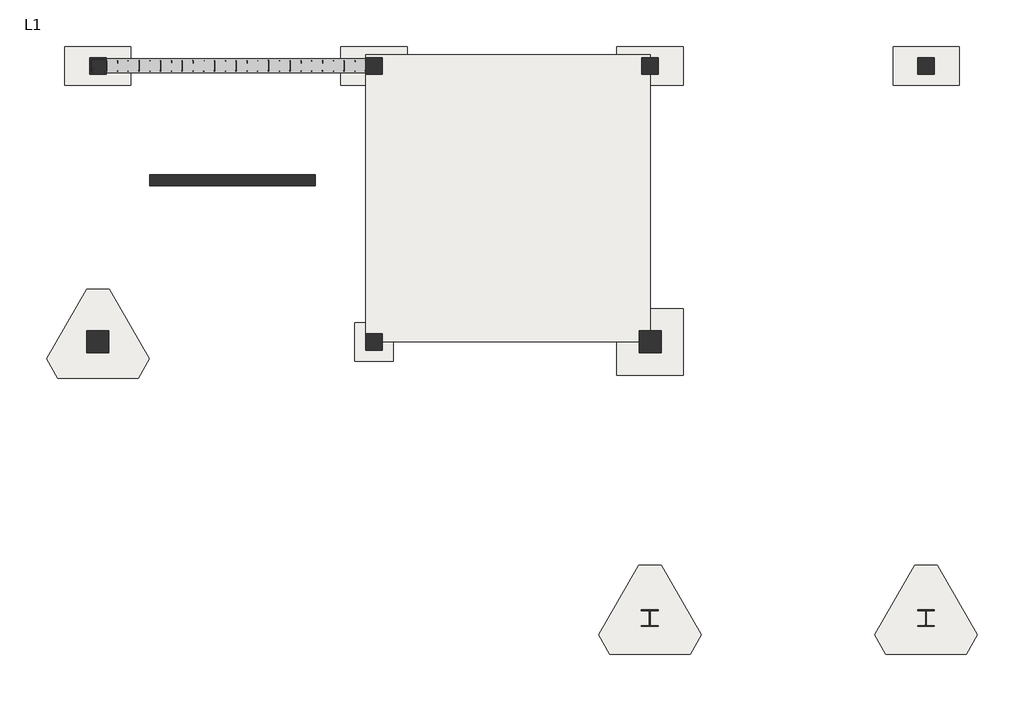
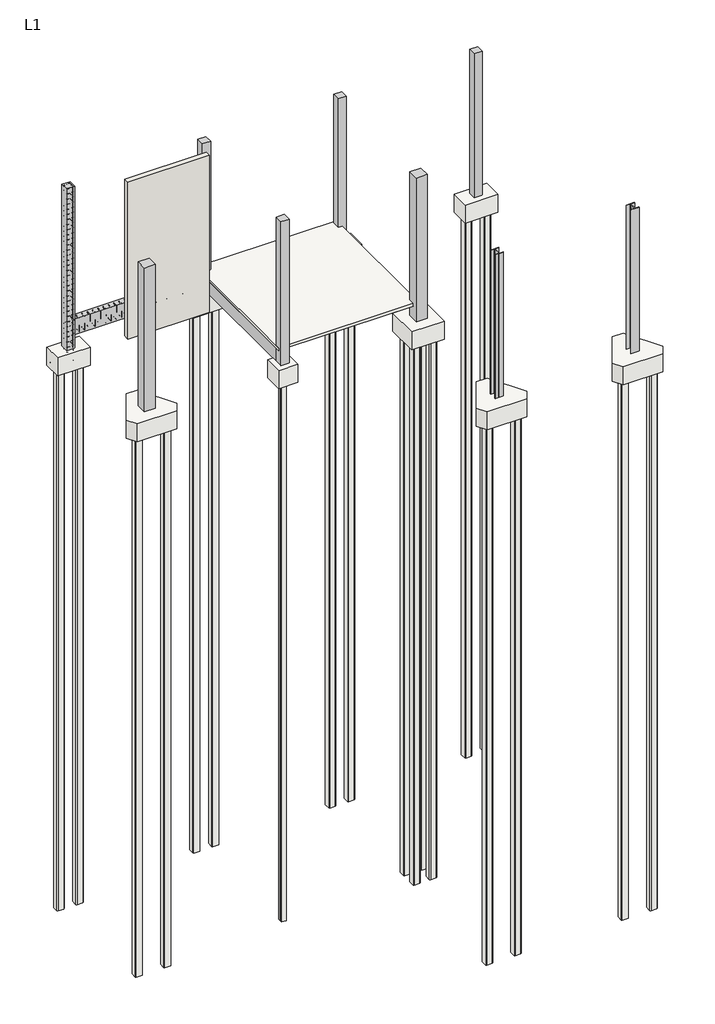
# One storey, part 1 of 2: 32 slabs, 9 columns, 3 beams, 1 wall.
"""IFC4 building model written with IfcOpenShell, lengths in millimetres."""

from ifc_helpers import new_model, si_unit, frame, origin, origin_with_axes, place, context, project, spatial, polyline, outline, extrude, faceted_brep, transform, mapped, element, save
from components import column_7ff625d0, m_concrete_rectangular_column_300_x_300mm_2635544c, m_concrete_rectangular_column_400_x_400mm_518cfa90

model = new_model("IFC4")

# Units and contexts
model_context = context("Model", 3, world=origin())
ifc_project = project(units=[si_unit("LENGTHUNIT", "METRE", prefix="MILLI")], contexts=[model_context])

# Site, building, storey
site = spatial("IfcSite", under=ifc_project)
building = spatial("IfcBuilding", under=site)
storey = spatial("IfcBuildingStorey", under=building, Name="L1", Elevation=0.0)

# Beams
placement = place(None, origin())
element("IfcBeam", 1, ObjectType="M_Concrete-Rectangular Beam : 300 x 600mm", at=placement, inside=storey, context=model_context, shape_type="SweptSolid", body=[
    extrude(outline(polyline([(-5818.0, 13516.0), (-5518.0, 13516.0), (-5518.0, 8866.0), (-5818.0, 8866.0), (-5818.0, 13516.0)])), frame((0.0, 0.0, -600.0), z_axis=(0.0, 0.0, 1.0), x_axis=(1.0, 0.0, 0.0)), (0.0, 0.0, 1.0), 500.0),
])
element("IfcBeam", 2, ObjectType="M_Concrete-Rectangular Ground Beam : 250 x 600", at=placement, inside=storey, context=model_context, shape_type="SweptSolid", body=[
    extrude(outline(polyline([(-10518.0, 13591.0), (-10518.0, 13841.0), (-5818.0, 13841.0), (-5818.0, 13591.0), (-10518.0, 13591.0)])), frame((0.0, 0.0, -800.0), z_axis=(0.0, 0.0, 1.0), x_axis=(1.0, 0.0, 0.0)), (0.0, 0.0, 1.0), 600.0),
])
element("IfcBeam", 3, ObjectType="M_Concrete-Rectangular Ground Beam : 400 x 800mm", at=placement, inside=storey, context=model_context, shape_type="Brep", body=[
    faceted_brep([(-5818.0, 13516.0, -800.0), (-668.0, 13516.0, -800.0), (-668.0, 13516.0, -100.0), (-5518.0, 13516.0, -100.0), (-5818.0, 13516.0, -100.0), (-5818.0, 13516.0, -600.0), (-5518.0, 13566.0, -800.0), (-5518.0, 13866.0, -800.0), (-5818.0, 13866.0, -800.0), (-5818.0, 13916.0, -800.0), (-668.0, 13916.0, -800.0), (-668.0, 13866.0, -800.0), (-818.0, 13866.0, -800.0), (-818.0, 13566.0, -800.0), (-668.0, 13566.0, -800.0), (-5818.0, 13566.0, -800.0), (-5818.0, 13916.0, -100.0), (-668.0, 13916.0, -100.0), (-668.0, 13566.0, -100.0), (-5518.0, 13566.0, -100.0), (-5518.0, 13866.0, -100.0), (-5818.0, 13566.0, -100.0), (-5818.0, 13866.0, -100.0), (-818.0, 13566.0, -100.0), (-818.0, 13866.0, -100.0), (-668.0, 13866.0, -100.0)], [[[0, 1, 2, 3, 4, 5]], [[6, 7, 8, 9, 10, 11, 12, 13, 14, 1, 0, 15]], [[10, 9, 16, 17]], [[1, 14, 18, 2]], [[7, 6, 19, 20]], [[6, 15, 21, 19]], [[8, 7, 20, 22]], [[14, 13, 23, 18]], [[13, 12, 24, 23]], [[12, 11, 25, 24]], [[11, 10, 17, 25]], [[9, 8, 22, 16]], [[15, 0, 5, 4, 21]], [[4, 3, 2, 18, 23, 24, 25, 17, 16, 22, 20, 19, 21]]]),
])

# Columns
column_shape = column_7ff625d0(model_context)
element("IfcColumn", 4, ObjectType="M_WF-Wide Flange-Column : WF - 300x300x10x15 mm. - 94 kg./m.", at=placement, inside=storey, context=model_context, shape_type="MappedRepresentation", body=[
    mapped(column_shape, transform((-673.0, 3716.0, 0.0), x_axis=(1.0, 0.0, 0.0), y_axis=(0.0, 1.0, 0.0), z_axis=(0.0, 0.0, 1.0))),
])
element("IfcColumn", 5, ObjectType="M_WF-Wide Flange-Column : WF - 300x300x10x15 mm. - 94 kg./m.", at=placement, inside=storey, context=model_context, shape_type="MappedRepresentation", body=[
    mapped(column_shape, transform((4327.0, 3716.0, 0.0), x_axis=(1.0, 0.0, 0.0), y_axis=(0.0, 1.0, 0.0), z_axis=(0.0, 0.0, 1.0))),
])
element("IfcColumn", 6, ObjectType="M_Concrete-Rectangular-Column : 300 x 300mm", at=placement, inside=storey, context=model_context, shape_type="SweptSolid", body=[
    extrude(outline(polyline([(-10518.0, 13866.0), (-10518.0, 13566.0), (-10818.0, 13566.0), (-10818.0, 13866.0), (-10518.0, 13866.0)])), frame((0.0, 0.0, -1300.0), z_axis=(0.0, 0.0, 1.0), x_axis=(1.0, 0.0, 0.0)), (0.0, 0.0, 1.0), 6300.0),
])
element("IfcColumn", 7, ObjectType="M_Concrete-Rectangular-Column : 300 x 300mm", at=placement, inside=storey, context=model_context, shape_type="SweptSolid", body=[
    extrude(outline(polyline([(-5518.0, 13866.0), (-5518.0, 13566.0), (-5818.0, 13566.0), (-5818.0, 13866.0), (-5518.0, 13866.0)])), frame((0.0, 0.0, -800.0), z_axis=(0.0, 0.0, 1.0), x_axis=(1.0, 0.0, 0.0)), (0.0, 0.0, 1.0), 700.0),
    extrude(outline(polyline([(-5518.0, 13866.0), (-5518.0, 13566.0), (-5818.0, 13566.0), (-5818.0, 13866.0), (-5518.0, 13866.0)])), origin_with_axes(), (0.0, 0.0, 1.0), 5000.0),
])
element("IfcColumn", 8, ObjectType="M_Concrete-Rectangular-Column : 300 x 300mm", at=placement, inside=storey, context=model_context, shape_type="SweptSolid", body=[
    extrude(outline(polyline([(-800.0, -818.0), (-800.0, -518.0), (5000.0, -518.0), (5000.0, -818.0), (0.0, -818.0), (0.0, -668.0), (-100.0, -668.0), (-100.0, -818.0), (-800.0, -818.0)])), frame((0.0, 13566.0, 0.0), z_axis=(0.0, 1.0, 0.0), x_axis=(0.0, 0.0, 1.0)), (0.0, 0.0, 1.0), 300.0),
])
element("IfcColumn", 9, ObjectType="M_Concrete-Rectangular-Column : 300 x 300mm", at=placement, inside=storey, context=model_context, shape_type="SweptSolid", body=[
    extrude(outline(polyline([(8866.0, -600.0), (8566.0, -600.0), (8566.0, 5000.0), (8866.0, 5000.0), (8866.0, 0.0), (8716.0, 0.0), (8716.0, -100.0), (8866.0, -100.0), (8866.0, -600.0)])), frame((-5818.0, 0.0, 0.0), z_axis=(1.0, 0.0, 0.0), x_axis=(0.0, 1.0, 0.0)), (0.0, 0.0, 1.0), 300.0),
])
m_concrete_rectangular_column_300_x_300mm_shape = m_concrete_rectangular_column_300_x_300mm_2635544c(model_context)
element("IfcColumn", 10, ObjectType="M_Concrete-Rectangular-Column : 300 x 300mm", at=placement, inside=storey, context=model_context, shape_type="MappedRepresentation", body=[
    mapped(m_concrete_rectangular_column_300_x_300mm_shape, transform((4332.0, 13716.0, 0.0), x_axis=(1.0, 0.0, 0.0), y_axis=(0.0, 1.0, 0.0), z_axis=(0.0, 0.0, 1.0))),
])
element("IfcColumn", 11, ObjectType="M_Concrete-Rectangular-Column : 400 x 400mm", at=placement, inside=storey, context=model_context, shape_type="Brep", body=[
    faceted_brep([(-468.0, 8916.0, -600.0), (-468.0, 8516.0, -600.0), (-868.0, 8516.0, -600.0), (-868.0, 8916.0, -600.0), (-468.0, 8916.0, 5000.0), (-468.0, 8516.0, 5000.0), (-868.0, 8516.0, 5000.0), (-868.0, 8916.0, 5000.0), (-868.0, 8916.0, 0.0), (-868.0, 8716.0, 0.0), (-868.0, 8716.0, -100.0), (-868.0, 8916.0, -100.0), (-668.0, 8916.0, -100.0), (-668.0, 8916.0, 0.0), (-668.0, 8716.0, -100.0), (-668.0, 8716.0, 0.0)], [[[0, 1, 2, 3]], [[1, 0, 4, 5]], [[2, 1, 5, 6]], [[3, 2, 6, 7, 8, 9, 10, 11]], [[0, 3, 11, 12, 13, 8, 7, 4]], [[5, 4, 7, 6]], [[14, 12, 11, 10]], [[15, 9, 8, 13]], [[15, 14, 10, 9]], [[14, 15, 13, 12]]]),
])
m_concrete_rectangular_column_400_x_400mm_shape = m_concrete_rectangular_column_400_x_400mm_518cfa90(model_context)
element("IfcColumn", 12, ObjectType="M_Concrete-Rectangular-Column : 400 x 400mm", at=placement, inside=storey, context=model_context, shape_type="MappedRepresentation", body=[
    mapped(m_concrete_rectangular_column_400_x_400mm_shape, transform((-10668.0, 8716.0, 0.0), x_axis=(1.0, 0.0, 0.0), y_axis=(0.0, 1.0, 0.0), z_axis=(0.0, 0.0, 1.0))),
])

# Slabs
element("IfcSlab", 13, ObjectType="Concrete 100mm", at=placement, inside=storey, context=model_context, shape_type="Brep", body=[
    faceted_brep([(-668.0, 8716.0, -100.0), (-868.0, 8716.0, -100.0), (-5518.0, 8716.0, -100.0), (-5818.0, 8716.0, -100.0), (-5818.0, 8866.0, -100.0), (-5818.0, 13516.0, -100.0), (-5818.0, 13566.0, -100.0), (-5818.0, 13866.0, -100.0), (-5818.0, 13916.0, -100.0), (-668.0, 13916.0, -100.0), (-668.0, 13866.0, -100.0), (-668.0, 13566.0, -100.0), (-668.0, 13516.0, -100.0), (-668.0, 8916.0, -100.0), (-668.0, 8716.0, 0.0), (-668.0, 8916.0, 0.0), (-668.0, 13566.0, 0.0), (-668.0, 13866.0, 0.0), (-668.0, 13916.0, 0.0), (-5818.0, 13916.0, 0.0), (-5818.0, 13866.0, 0.0), (-5818.0, 13566.0, 0.0), (-5818.0, 8866.0, 0.0), (-5818.0, 8716.0, 0.0), (-5518.0, 8716.0, 0.0), (-868.0, 8716.0, 0.0)], [[[0, 1, 2, 3, 4, 5, 6, 7, 8, 9, 10, 11, 12, 13]], [[14, 15, 16, 17, 18, 19, 20, 21, 22, 23, 24, 25]], [[3, 2, 1, 0, 14, 25, 24, 23]], [[8, 7, 6, 5, 4, 3, 23, 22, 21, 20, 19]], [[9, 8, 19, 18]], [[0, 13, 12, 11, 10, 9, 18, 17, 16, 15, 14]]]),
])
element("IfcSlab", 14, ObjectType="M-Foundation_1 Pile with Pile : 700x700X700(Thk.) mm.", at=placement, inside=storey, context=model_context, shape_type="SweptSolid", body=[
    extrude(outline(polyline([(-5318.0, 8366.0), (-6018.0, 8366.0), (-6018.0, 9066.0), (-5318.0, 9066.0), (-5318.0, 8366.0)])), frame((0.0, 0.0, -1300.0), z_axis=(0.0, 0.0, 1.0), x_axis=(1.0, 0.0, 0.0)), (0.0, 0.0, 1.0), 700.0),
])
element("IfcSlab", 15, ObjectType="M-Foundation_2 Pile with Pile : 700x1200x700 (Thk,) mm.", at=placement, inside=storey, context=model_context, shape_type="SweptSolid", body=[
    extrude(outline(polyline([(-10068.0, 13366.0), (-11268.0, 13366.0), (-11268.0, 14066.0), (-10068.0, 14066.0), (-10068.0, 13366.0)])), frame((0.0, 0.0, -2000.0), z_axis=(0.0, 0.0, 1.0), x_axis=(1.0, 0.0, 0.0)), (0.0, 0.0, 1.0), 700.0),
])
element("IfcSlab", 16, ObjectType="M-Foundation_2 Pile with Pile : 700x1200x700 (Thk,) mm.", at=placement, inside=storey, context=model_context, shape_type="SweptSolid", body=[
    extrude(outline(polyline([(-5068.0, 13366.0), (-6268.0, 13366.0), (-6268.0, 14066.0), (-5068.0, 14066.0), (-5068.0, 13366.0)])), frame((0.0, 0.0, -1500.0), z_axis=(0.0, 0.0, 1.0), x_axis=(1.0, 0.0, 0.0)), (0.0, 0.0, 1.0), 700.0),
])
element("IfcSlab", 17, ObjectType="M-Foundation_2 Pile with Pile : 700x1200x700 (Thk,) mm.", at=placement, inside=storey, context=model_context, shape_type="SweptSolid", body=[
    extrude(outline(polyline([(-68.0, 13366.0), (-1268.0, 13366.0), (-1268.0, 14066.0), (-68.0, 14066.0), (-68.0, 13366.0)])), frame((0.0, 0.0, -1500.0), z_axis=(0.0, 0.0, 1.0), x_axis=(1.0, 0.0, 0.0)), (0.0, 0.0, 1.0), 700.0),
])
element("IfcSlab", 18, ObjectType="M-Foundation_2 Pile with Pile : 700x1200x700 (Thk,) mm.", at=placement, inside=storey, context=model_context, shape_type="SweptSolid", body=[
    extrude(outline(polyline([(4932.0, 13366.0), (3732.0, 13366.0), (3732.0, 14066.0), (4932.0, 14066.0), (4932.0, 13366.0)])), frame((0.0, 0.0, -1300.0), z_axis=(0.0, 0.0, 1.0), x_axis=(1.0, 0.0, 0.0)), (0.0, 0.0, 1.0), 700.0),
])
element("IfcSlab", 19, ObjectType="M-Foundation_3 Pile with Pile : 700x1200x700 (Thk.) mm.", at=placement, inside=storey, context=model_context, shape_type="SweptSolid", body=[
    extrude(outline(polyline([(-9738.8548116, 8412.8911087), (-9940.9274058, 8062.8911087), (-11395.0725942, 8062.8911087), (-11597.1451884, 8412.8911087), (-10870.0725942, 9672.2177826), (-10465.9274058, 9672.2177826), (-9738.8548116, 8412.8911087)])), frame((0.0, 0.0, -1300.0), z_axis=(0.0, 0.0, 1.0), x_axis=(1.0, 0.0, 0.0)), (0.0, 0.0, 1.0), 700.0),
])
element("IfcSlab", 20, ObjectType="M-Foundation_3 Pile with Pile : 700x1200x700 (Thk.) mm.", at=placement, inside=storey, context=model_context, shape_type="SweptSolid", body=[
    extrude(outline(polyline([(261.1451884, 3412.8911087), (59.0725942, 3062.8911087), (-1395.0725942, 3062.8911087), (-1597.1451884, 3412.8911087), (-870.0725942, 4672.2177826), (-465.9274058, 4672.2177826), (261.1451884, 3412.8911087)])), frame((0.0, 0.0, -1300.0), z_axis=(0.0, 0.0, 1.0), x_axis=(1.0, 0.0, 0.0)), (0.0, 0.0, 1.0), 700.0),
])
element("IfcSlab", 21, ObjectType="M-Foundation_3 Pile with Pile : 700x1200x700 (Thk.) mm.", at=placement, inside=storey, context=model_context, shape_type="SweptSolid", body=[
    extrude(outline(polyline([(5261.1451884, 3412.8911087), (5059.0725942, 3062.8911087), (3604.9274058, 3062.8911087), (3402.8548116, 3412.8911087), (4129.9274058, 4672.2177826), (4534.0725942, 4672.2177826), (5261.1451884, 3412.8911087)])), frame((0.0, 0.0, -1300.0), z_axis=(0.0, 0.0, 1.0), x_axis=(1.0, 0.0, 0.0)), (0.0, 0.0, 1.0), 700.0),
])
element("IfcSlab", 22, ObjectType="M-Foundation_4 Pile with Pile : 1200x1200x700 (Thk.) mm.", at=placement, inside=storey, context=model_context, shape_type="SweptSolid", body=[
    extrude(outline(polyline([(-68.0, 8116.0), (-1268.0, 8116.0), (-1268.0, 9316.0), (-68.0, 9316.0), (-68.0, 8116.0)])), frame((0.0, 0.0, -1300.0), z_axis=(0.0, 0.0, 1.0), x_axis=(1.0, 0.0, 0.0)), (0.0, 0.0, 1.0), 700.0),
])
element("IfcSlab", 23, ObjectType="M_Pile I Shape : Pile I - 0.18x0.18", at=placement, inside=storey, context=model_context, shape_type="SweptSolid", body=[
    extrude(outline(polyline([(-5588.0, 8626.0), (-5748.0, 8626.0), (-5758.0, 8636.0), (-5758.0, 8686.0), (-5703.0, 8701.0), (-5703.0, 8731.0), (-5758.0, 8746.0), (-5758.0, 8796.0), (-5748.0, 8806.0), (-5588.0, 8806.0), (-5578.0, 8796.0), (-5578.0, 8746.0), (-5633.0, 8731.0), (-5633.0, 8701.0), (-5578.0, 8686.0), (-5578.0, 8636.0), (-5588.0, 8626.0)])), frame((0.0, 0.0, -22300.0), z_axis=(0.0, 0.0, 1.0), x_axis=(1.0, 0.0, 0.0)), (0.0, 0.0, 1.0), 21000.0),
])
element("IfcSlab", 24, ObjectType="M_Pile Square Sharpe : Pile Square - 0.26x0.26", at=placement, inside=storey, context=model_context, shape_type="SweptSolid", body=[
    extrude(outline(polyline([(-10213.0, 13846.0), (-10188.0, 13821.0), (-10188.0, 13611.0), (-10213.0, 13586.0), (-10423.0, 13586.0), (-10448.0, 13611.0), (-10448.0, 13821.0), (-10423.0, 13846.0), (-10213.0, 13846.0)])), frame((0.0, 0.0, -23000.0), z_axis=(0.0, 0.0, 1.0), x_axis=(1.0, 0.0, 0.0)), (0.0, 0.0, 1.0), 21100.0),
])
element("IfcSlab", 25, ObjectType="M_Pile Square Sharpe : Pile Square - 0.26x0.26", at=placement, inside=storey, context=model_context, shape_type="SweptSolid", body=[
    extrude(outline(polyline([(-10913.0, 13846.0), (-10888.0, 13821.0), (-10888.0, 13611.0), (-10913.0, 13586.0), (-11123.0, 13586.0), (-11148.0, 13611.0), (-11148.0, 13821.0), (-11123.0, 13846.0), (-10913.0, 13846.0)])), frame((0.0, 0.0, -23000.0), z_axis=(0.0, 0.0, 1.0), x_axis=(1.0, 0.0, 0.0)), (0.0, 0.0, 1.0), 21100.0),
])
element("IfcSlab", 26, ObjectType="M_Pile Square Sharpe : Pile Square - 0.26x0.26", at=placement, inside=storey, context=model_context, shape_type="SweptSolid", body=[
    extrude(outline(polyline([(-5213.0, 13846.0), (-5188.0, 13821.0), (-5188.0, 13611.0), (-5213.0, 13586.0), (-5423.0, 13586.0), (-5448.0, 13611.0), (-5448.0, 13821.0), (-5423.0, 13846.0), (-5213.0, 13846.0)])), frame((0.0, 0.0, -22500.0), z_axis=(0.0, 0.0, 1.0), x_axis=(1.0, 0.0, 0.0)), (0.0, 0.0, 1.0), 21000.0),
])
element("IfcSlab", 27, ObjectType="M_Pile Square Sharpe : Pile Square - 0.26x0.26", at=placement, inside=storey, context=model_context, shape_type="SweptSolid", body=[
    extrude(outline(polyline([(-5913.0, 13846.0), (-5888.0, 13821.0), (-5888.0, 13611.0), (-5913.0, 13586.0), (-6123.0, 13586.0), (-6148.0, 13611.0), (-6148.0, 13821.0), (-6123.0, 13846.0), (-5913.0, 13846.0)])), frame((0.0, 0.0, -22500.0), z_axis=(0.0, 0.0, 1.0), x_axis=(1.0, 0.0, 0.0)), (0.0, 0.0, 1.0), 21000.0),
])
element("IfcSlab", 28, ObjectType="M_Pile Square Sharpe : Pile Square - 0.26x0.26", at=placement, inside=storey, context=model_context, shape_type="SweptSolid", body=[
    extrude(outline(polyline([(-213.0, 13846.0), (-188.0, 13821.0), (-188.0, 13611.0), (-213.0, 13586.0), (-423.0, 13586.0), (-448.0, 13611.0), (-448.0, 13821.0), (-423.0, 13846.0), (-213.0, 13846.0)])), frame((0.0, 0.0, -22500.0), z_axis=(0.0, 0.0, 1.0), x_axis=(1.0, 0.0, 0.0)), (0.0, 0.0, 1.0), 21000.0),
])
element("IfcSlab", 29, ObjectType="M_Pile Square Sharpe : Pile Square - 0.26x0.26", at=placement, inside=storey, context=model_context, shape_type="SweptSolid", body=[
    extrude(outline(polyline([(-913.0, 13846.0), (-888.0, 13821.0), (-888.0, 13611.0), (-913.0, 13586.0), (-1123.0, 13586.0), (-1148.0, 13611.0), (-1148.0, 13821.0), (-1123.0, 13846.0), (-913.0, 13846.0)])), frame((0.0, 0.0, -22500.0), z_axis=(0.0, 0.0, 1.0), x_axis=(1.0, 0.0, 0.0)), (0.0, 0.0, 1.0), 21000.0),
])
element("IfcSlab", 30, ObjectType="M_Pile Square Sharpe : Pile Square - 0.26x0.26", at=placement, inside=storey, context=model_context, shape_type="SweptSolid", body=[
    extrude(outline(polyline([(4787.0, 13846.0), (4812.0, 13821.0), (4812.0, 13611.0), (4787.0, 13586.0), (4577.0, 13586.0), (4552.0, 13611.0), (4552.0, 13821.0), (4577.0, 13846.0), (4787.0, 13846.0)])), frame((0.0, 0.0, -22300.0), z_axis=(0.0, 0.0, 1.0), x_axis=(1.0, 0.0, 0.0)), (0.0, 0.0, 1.0), 21000.0),
])
element("IfcSlab", 31, ObjectType="M_Pile Square Sharpe : Pile Square - 0.26x0.26", at=placement, inside=storey, context=model_context, shape_type="SweptSolid", body=[
    extrude(outline(polyline([(4087.0, 13846.0), (4112.0, 13821.0), (4112.0, 13611.0), (4087.0, 13586.0), (3877.0, 13586.0), (3852.0, 13611.0), (3852.0, 13821.0), (3877.0, 13846.0), (4087.0, 13846.0)])), frame((0.0, 0.0, -22300.0), z_axis=(0.0, 0.0, 1.0), x_axis=(1.0, 0.0, 0.0)), (0.0, 0.0, 1.0), 21000.0),
])
element("IfcSlab", 32, ObjectType="M_Pile Square Sharpe : Pile Square - 0.26x0.26", at=placement, inside=storey, context=model_context, shape_type="SweptSolid", body=[
    extrude(outline(polyline([(-10038.0, 8542.8911087), (-10013.0, 8517.8911087), (-10013.0, 8307.8911087), (-10038.0, 8282.8911087), (-10248.0, 8282.8911087), (-10273.0, 8307.8911087), (-10273.0, 8517.8911087), (-10248.0, 8542.8911087), (-10038.0, 8542.8911087)])), frame((0.0, 0.0, -22300.0), z_axis=(0.0, 0.0, 1.0), x_axis=(1.0, 0.0, 0.0)), (0.0, 0.0, 1.0), 21000.0),
])
element("IfcSlab", 33, ObjectType="M_Pile Square Sharpe : Pile Square - 0.26x0.26", at=placement, inside=storey, context=model_context, shape_type="SweptSolid", body=[
    extrude(outline(polyline([(-11088.0, 8542.8911087), (-11063.0, 8517.8911087), (-11063.0, 8307.8911087), (-11088.0, 8282.8911087), (-11298.0, 8282.8911087), (-11323.0, 8307.8911087), (-11323.0, 8517.8911087), (-11298.0, 8542.8911087), (-11088.0, 8542.8911087)])), frame((0.0, 0.0, -22300.0), z_axis=(0.0, 0.0, 1.0), x_axis=(1.0, 0.0, 0.0)), (0.0, 0.0, 1.0), 21000.0),
])
element("IfcSlab", 34, ObjectType="M_Pile Square Sharpe : Pile Square - 0.26x0.26", at=placement, inside=storey, context=model_context, shape_type="SweptSolid", body=[
    extrude(outline(polyline([(-10563.0, 9452.2177826), (-10538.0, 9427.2177826), (-10538.0, 9217.2177826), (-10563.0, 9192.2177826), (-10773.0, 9192.2177826), (-10798.0, 9217.2177826), (-10798.0, 9427.2177826), (-10773.0, 9452.2177826), (-10563.0, 9452.2177826)])), frame((0.0, 0.0, -22300.0), z_axis=(0.0, 0.0, 1.0), x_axis=(1.0, 0.0, 0.0)), (0.0, 0.0, 1.0), 21000.0),
])
element("IfcSlab", 35, ObjectType="M_Pile Square Sharpe : Pile Square - 0.26x0.26", at=placement, inside=storey, context=model_context, shape_type="SweptSolid", body=[
    extrude(outline(polyline([(-863.0, 9146.0), (-838.0, 9121.0), (-838.0, 8911.0), (-863.0, 8886.0), (-1073.0, 8886.0), (-1098.0, 8911.0), (-1098.0, 9121.0), (-1073.0, 9146.0), (-863.0, 9146.0)])), frame((0.0, 0.0, -22300.0), z_axis=(0.0, 0.0, 1.0), x_axis=(1.0, 0.0, 0.0)), (0.0, 0.0, 1.0), 21000.0),
])
element("IfcSlab", 36, ObjectType="M_Pile Square Sharpe : Pile Square - 0.26x0.26", at=placement, inside=storey, context=model_context, shape_type="SweptSolid", body=[
    extrude(outline(polyline([(-263.0, 9146.0), (-238.0, 9121.0), (-238.0, 8911.0), (-263.0, 8886.0), (-473.0, 8886.0), (-498.0, 8911.0), (-498.0, 9121.0), (-473.0, 9146.0), (-263.0, 9146.0)])), frame((0.0, 0.0, -22300.0), z_axis=(0.0, 0.0, 1.0), x_axis=(1.0, 0.0, 0.0)), (0.0, 0.0, 1.0), 21000.0),
])
element("IfcSlab", 37, ObjectType="M_Pile Square Sharpe : Pile Square - 0.26x0.26", at=placement, inside=storey, context=model_context, shape_type="SweptSolid", body=[
    extrude(outline(polyline([(-263.0, 8546.0), (-238.0, 8521.0), (-238.0, 8311.0), (-263.0, 8286.0), (-473.0, 8286.0), (-498.0, 8311.0), (-498.0, 8521.0), (-473.0, 8546.0), (-263.0, 8546.0)])), frame((0.0, 0.0, -22300.0), z_axis=(0.0, 0.0, 1.0), x_axis=(1.0, 0.0, 0.0)), (0.0, 0.0, 1.0), 21000.0),
])
element("IfcSlab", 38, ObjectType="M_Pile Square Sharpe : Pile Square - 0.26x0.26", at=placement, inside=storey, context=model_context, shape_type="SweptSolid", body=[
    extrude(outline(polyline([(-863.0, 8546.0), (-838.0, 8521.0), (-838.0, 8311.0), (-863.0, 8286.0), (-1073.0, 8286.0), (-1098.0, 8311.0), (-1098.0, 8521.0), (-1073.0, 8546.0), (-863.0, 8546.0)])), frame((0.0, 0.0, -22300.0), z_axis=(0.0, 0.0, 1.0), x_axis=(1.0, 0.0, 0.0)), (0.0, 0.0, 1.0), 21000.0),
])
element("IfcSlab", 39, ObjectType="M_Pile Square Sharpe : Pile Square - 0.26x0.26", at=placement, inside=storey, context=model_context, shape_type="SweptSolid", body=[
    extrude(outline(polyline([(-38.0, 3542.8911087), (-13.0, 3517.8911087), (-13.0, 3307.8911087), (-38.0, 3282.8911087), (-248.0, 3282.8911087), (-273.0, 3307.8911087), (-273.0, 3517.8911087), (-248.0, 3542.8911087), (-38.0, 3542.8911087)])), frame((0.0, 0.0, -22300.0), z_axis=(0.0, 0.0, 1.0), x_axis=(1.0, 0.0, 0.0)), (0.0, 0.0, 1.0), 21000.0),
])
element("IfcSlab", 40, ObjectType="M_Pile Square Sharpe : Pile Square - 0.26x0.26", at=placement, inside=storey, context=model_context, shape_type="SweptSolid", body=[
    extrude(outline(polyline([(-1088.0, 3542.8911087), (-1063.0, 3517.8911087), (-1063.0, 3307.8911087), (-1088.0, 3282.8911087), (-1298.0, 3282.8911087), (-1323.0, 3307.8911087), (-1323.0, 3517.8911087), (-1298.0, 3542.8911087), (-1088.0, 3542.8911087)])), frame((0.0, 0.0, -22300.0), z_axis=(0.0, 0.0, 1.0), x_axis=(1.0, 0.0, 0.0)), (0.0, 0.0, 1.0), 21000.0),
])
element("IfcSlab", 41, ObjectType="M_Pile Square Sharpe : Pile Square - 0.26x0.26", at=placement, inside=storey, context=model_context, shape_type="SweptSolid", body=[
    extrude(outline(polyline([(-563.0, 4452.2177826), (-538.0, 4427.2177826), (-538.0, 4217.2177826), (-563.0, 4192.2177826), (-773.0, 4192.2177826), (-798.0, 4217.2177826), (-798.0, 4427.2177826), (-773.0, 4452.2177826), (-563.0, 4452.2177826)])), frame((0.0, 0.0, -22300.0), z_axis=(0.0, 0.0, 1.0), x_axis=(1.0, 0.0, 0.0)), (0.0, 0.0, 1.0), 21000.0),
])
element("IfcSlab", 42, ObjectType="M_Pile Square Sharpe : Pile Square - 0.26x0.26", at=placement, inside=storey, context=model_context, shape_type="SweptSolid", body=[
    extrude(outline(polyline([(4962.0, 3542.8911087), (4987.0, 3517.8911087), (4987.0, 3307.8911087), (4962.0, 3282.8911087), (4752.0, 3282.8911087), (4727.0, 3307.8911087), (4727.0, 3517.8911087), (4752.0, 3542.8911087), (4962.0, 3542.8911087)])), frame((0.0, 0.0, -22300.0), z_axis=(0.0, 0.0, 1.0), x_axis=(1.0, 0.0, 0.0)), (0.0, 0.0, 1.0), 21000.0),
])
element("IfcSlab", 43, ObjectType="M_Pile Square Sharpe : Pile Square - 0.26x0.26", at=placement, inside=storey, context=model_context, shape_type="SweptSolid", body=[
    extrude(outline(polyline([(3912.0, 3542.8911087), (3937.0, 3517.8911087), (3937.0, 3307.8911087), (3912.0, 3282.8911087), (3702.0, 3282.8911087), (3677.0, 3307.8911087), (3677.0, 3517.8911087), (3702.0, 3542.8911087), (3912.0, 3542.8911087)])), frame((0.0, 0.0, -22300.0), z_axis=(0.0, 0.0, 1.0), x_axis=(1.0, 0.0, 0.0)), (0.0, 0.0, 1.0), 21000.0),
])
element("IfcSlab", 44, ObjectType="M_Pile Square Sharpe : Pile Square - 0.26x0.26", at=placement, inside=storey, context=model_context, shape_type="SweptSolid", body=[
    extrude(outline(polyline([(4437.0, 4452.2177826), (4462.0, 4427.2177826), (4462.0, 4217.2177826), (4437.0, 4192.2177826), (4227.0, 4192.2177826), (4202.0, 4217.2177826), (4202.0, 4427.2177826), (4227.0, 4452.2177826), (4437.0, 4452.2177826)])), frame((0.0, 0.0, -22300.0), z_axis=(0.0, 0.0, 1.0), x_axis=(1.0, 0.0, 0.0)), (0.0, 0.0, 1.0), 21000.0),
])

# Wall
element("IfcWall", 45, ObjectType="Concrete 200mm", at=placement, inside=storey, context=model_context, shape_type="SweptSolid", body=[
    extrude(outline(polyline([(-6726.954218, 11546.3143578), (-9726.954218, 11546.3143578), (-9726.954218, 11746.3143578), (-6726.954218, 11746.3143578), (-6726.954218, 11546.3143578)])), origin_with_axes(), (0.0, 0.0, 1.0), 6096.0),
])

save(model, "model.ifc")
